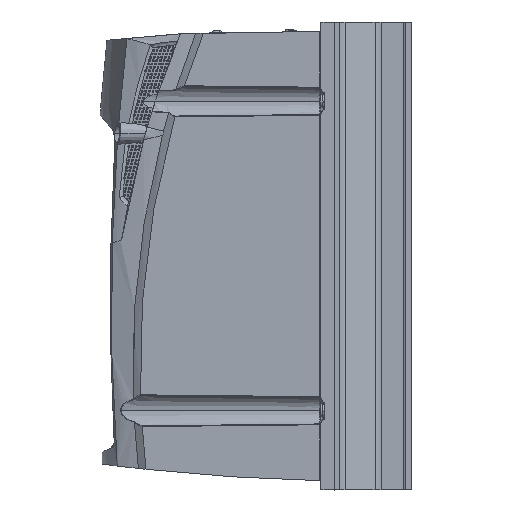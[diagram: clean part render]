
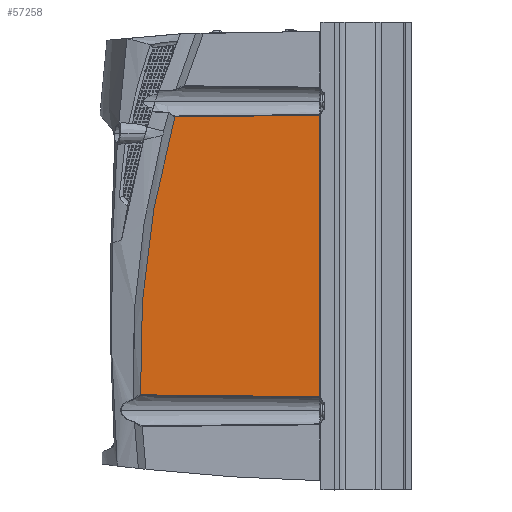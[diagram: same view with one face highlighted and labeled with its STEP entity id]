
A CAD part, left-side view. The second image highlights one B-rep face of the part: STEP entity #57258.
In plain terms, the highlighted planar face has unit normal (-1, 0.018, 0).
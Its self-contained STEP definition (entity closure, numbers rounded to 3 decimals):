
#828 = CARTESIAN_POINT ( 'NONE',  ( -82.176, 104.458, -63.358 ) ) ;
#1345 = CARTESIAN_POINT ( 'NONE',  ( -82.513, 85.127, 76.449 ) ) ;
#1485 = CARTESIAN_POINT ( 'NONE',  ( -82.183, 104.04, -76.249 ) ) ;
#4008 = ORIENTED_EDGE ( 'NONE', *, *, #44025, .T. ) ;
#4561 = VERTEX_POINT ( 'NONE', #21904 ) ;
#4896 = CARTESIAN_POINT ( 'NONE',  ( -83.71, 16.571, -77.166 ) ) ;
#5097 = AXIS2_PLACEMENT_3D ( 'NONE', #31699, #51931, #73453 ) ;
#5314 = CARTESIAN_POINT ( 'NONE',  ( -82.545, 83.29, -76.467 ) ) ;
#7843 = DIRECTION ( 'NONE',  ( 0., 0., 1. ) ) ;
#8737 = CARTESIAN_POINT ( 'NONE',  ( -82.198, 103.169, -26.395 ) ) ;
#11438 = CARTESIAN_POINT ( 'NONE',  ( -83.44, 32.036, 76.994 ) ) ;
#11670 = EDGE_CURVE ( 'NONE', #68720, #63020, #80471, .T. ) ;
#11929 = CARTESIAN_POINT ( 'NONE',  ( -83.323, 38.73, -76.928 ) ) ;
#12814 = ORIENTED_EDGE ( 'NONE', *, *, #77087, .T. ) ;
#14921 = CARTESIAN_POINT ( 'NONE',  ( -82.183, 104.042, -76.222 ) ) ;
#18082 = CARTESIAN_POINT ( 'NONE',  ( -83.048, 54.512, -76.762 ) ) ;
#18516 = CARTESIAN_POINT ( 'NONE',  ( -82.941, 60.647, -76.698 ) ) ;
#20637 = CARTESIAN_POINT ( 'NONE',  ( -82.3, 97.336, 23.125 ) ) ;
#21085 = CARTESIAN_POINT ( 'NONE',  ( -82.251, 100.144, 4.017 ) ) ;
#21532 = CARTESIAN_POINT ( 'NONE',  ( -82.231, 101.331, -5.567 ) ) ;
#21752 = CARTESIAN_POINT ( 'NONE',  ( -82.183, 104.038, -76.262 ) ) ;
#21904 = CARTESIAN_POINT ( 'NONE',  ( -82.183, 104.042, -76.222 ) ) ;
#22175 = CARTESIAN_POINT ( 'NONE',  ( -82.183, 104.041, -76.235 ) ) ;
#22404 = CARTESIAN_POINT ( 'NONE',  ( -82.398, 91.734, 51.558 ) ) ;
#27256 = CARTESIAN_POINT ( 'NONE',  ( -82.451, 88.674, 64.063 ) ) ;
#27470 = CARTESIAN_POINT ( 'NONE',  ( -82.183, 104.042, -76.222 ) ) ;
#28118 = CARTESIAN_POINT ( 'NONE',  ( -83.903, 5.491, -128.5 ) ) ;
#28822 = EDGE_LOOP ( 'NONE', ( #55757, #34014, #12814, #69122, #4008 ) ) ;
#30476 = CARTESIAN_POINT ( 'NONE',  ( -82.834, 66.781, -76.635 ) ) ;
#31699 = CARTESIAN_POINT ( 'NONE',  ( -84.001, -0.087, -128.5 ) ) ;
#31777 = CARTESIAN_POINT ( 'NONE',  ( -82.183, 104.038, -76.262 ) ) ;
#32985 = EDGE_CURVE ( 'NONE', #41360, #68720, #51894, .T. ) ;
#32993 = PLANE ( 'NONE',  #5097 ) ;
#33020 = CARTESIAN_POINT ( 'NONE',  ( -82.977, 58.582, 76.715 ) ) ;
#34014 = ORIENTED_EDGE ( 'NONE', *, *, #11670, .T. ) ;
#35203 = CARTESIAN_POINT ( 'NONE',  ( -82.19, 103.636, -34.427 ) ) ;
#35632 = CARTESIAN_POINT ( 'NONE',  ( -82.189, 103.717, -36.036 ) ) ;
#37507 = CARTESIAN_POINT ( 'NONE',  ( -82.726, 72.915, -76.573 ) ) ;
#37976 = CARTESIAN_POINT ( 'NONE',  ( -83.903, 5.491, 77.289 ) ) ;
#38819 = CARTESIAN_POINT ( 'NONE',  ( -83.517, 27.65, -77.046 ) ) ;
#39195 = CARTESIAN_POINT ( 'NONE',  ( -82.513, 85.127, 76.449 ) ) ;
#41360 = VERTEX_POINT ( 'NONE', #43592 ) ;
#42477 = VECTOR ( 'NONE', #7843, 1000. ) ;
#42551 = B_SPLINE_CURVE_WITH_KNOTS ( 'NONE', 3,
 ( #27470, #22175, #1485, #21752 ),
 .UNSPECIFIED., .F., .F.,
 ( 4, 4 ),
 ( 0., 0. ),
 .UNSPECIFIED. ) ;
#43592 = CARTESIAN_POINT ( 'NONE',  ( -82.183, 104.038, -76.262 ) ) ;
#44025 = EDGE_CURVE ( 'NONE', #4561, #41360, #42551, .T. ) ;
#45410 = CARTESIAN_POINT ( 'NONE',  ( -83.14, 49.251, -76.817 ) ) ;
#45785 = CARTESIAN_POINT ( 'NONE',  ( -83.903, 5.491, 77.289 ) ) ;
#47530 = CARTESIAN_POINT ( 'NONE',  ( -82.213, 102.33, -15.167 ) ) ;
#51894 = B_SPLINE_CURVE_WITH_KNOTS ( 'NONE', 3,
 ( #31777, #78409, #5314, #37507, #30476, #18516, #18082, #45410, #65207, #11929, #38819, #4896, #58624 ),
 .UNSPECIFIED., .F., .F.,
 ( 4, 3, 3, 3, 4 ),
 ( 0., 0.031, 0.05, 0.065, 0.099 ),
 .UNSPECIFIED. ) ;
#51931 = DIRECTION ( 'NONE',  ( -1., 0.017, 0. ) ) ;
#54590 = CARTESIAN_POINT ( 'NONE',  ( -82.331, 95.592, 32.623 ) ) ;
#55460 = CARTESIAN_POINT ( 'NONE',  ( -82.275, 98.802, 13.582 ) ) ;
#55757 = ORIENTED_EDGE ( 'NONE', *, *, #32985, .T. ) ;
#57258 = ADVANCED_FACE ( 'NONE', ( #79618 ), #32993, .T. ) ;
#58624 = CARTESIAN_POINT ( 'NONE',  ( -83.903, 5.491, -77.289 ) ) ;
#61487 = B_SPLINE_CURVE_WITH_KNOTS ( 'NONE', 3,
 ( #45785, #11438, #33020, #39195 ),
 .UNSPECIFIED., .F., .F.,
 ( 4, 4 ),
 ( 0., 0.08 ),
 .UNSPECIFIED. ) ;
#63020 = VERTEX_POINT ( 'NONE', #37976 ) ;
#64551 = EDGE_CURVE ( 'NONE', #71398, #4561, #77430, .T. ) ;
#65207 = CARTESIAN_POINT ( 'NONE',  ( -83.231, 43.99, -76.872 ) ) ;
#68720 = VERTEX_POINT ( 'NONE', #83210 ) ;
#69074 = CARTESIAN_POINT ( 'NONE',  ( -82.259, 99.717, 7.21 ) ) ;
#69122 = ORIENTED_EDGE ( 'NONE', *, *, #64551, .T. ) ;
#71398 = VERTEX_POINT ( 'NONE', #1345 ) ;
#73453 = DIRECTION ( 'NONE',  ( 0.017, 1., 0. ) ) ;
#74339 = CARTESIAN_POINT ( 'NONE',  ( -82.177, 104.374, -50.498 ) ) ;
#75233 = CARTESIAN_POINT ( 'NONE',  ( -82.193, 103.459, -31.214 ) ) ;
#77087 = EDGE_CURVE ( 'NONE', #63020, #71398, #61487, .T. ) ;
#77430 = B_SPLINE_CURVE_WITH_KNOTS ( 'NONE', 3,
 ( #80947, #27256, #22404, #54590, #20637, #55460, #69074, #21085, #21532, #47530, #8737, #75233, #35203, #35632, #74339, #828, #14921 ),
 .UNSPECIFIED., .F., .F.,
 ( 4, 2, 1, 2, 2, 1, 1, 2, 2, 4 ),
 ( 0., 0.25, 0.375, 0.437, 0.5, 0.625, 0.688, 0.719, 0.75, 1. ),
 .UNSPECIFIED. ) ;
#78409 = CARTESIAN_POINT ( 'NONE',  ( -82.364, 93.664, -76.363 ) ) ;
#79618 = FACE_OUTER_BOUND ( 'NONE', #28822, .T. ) ;
#80471 = LINE ( 'NONE', #28118, #42477 ) ;
#80947 = CARTESIAN_POINT ( 'NONE',  ( -82.513, 85.127, 76.449 ) ) ;
#83210 = CARTESIAN_POINT ( 'NONE',  ( -83.903, 5.491, -77.289 ) ) ;
